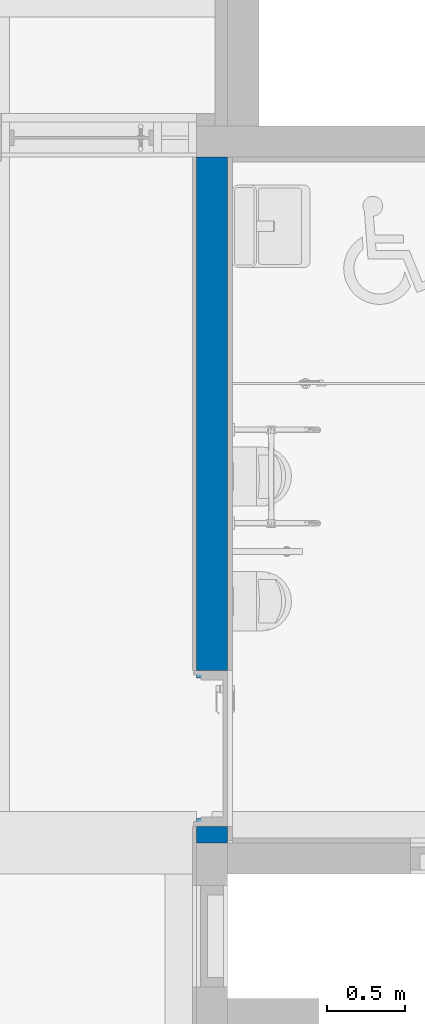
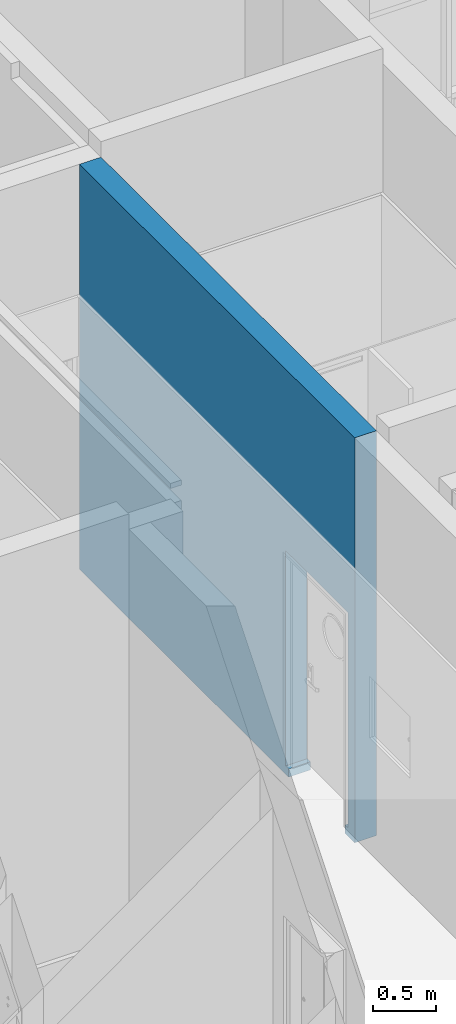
# One storey, part 57 of 76: 1 wall, 2 openings.
"""IFC2X3 building model written with IfcOpenShell, lengths in millimetres."""

from ifc_helpers import new_model, entity, si_unit, converted_unit, derived_unit, direction, frame, frame_2d, origin, place, context, subcontext, project, spatial, polyline, rectangle, extrude, clip, bounded_halfspace, material, layer, layer_set, layer_usage, type_object, element, save


model = new_model("IFC2X3")

# Units and contexts
model_context = context("Model", 3, precision=0.01, world=origin(), true_north=direction((6.123031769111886e-17, 1.0)))
body_context = subcontext(model_context, "Body", "Model", "MODEL_VIEW")
ifc_project = project(units=[si_unit("LENGTHUNIT", "METRE", prefix="MILLI"), si_unit("AREAUNIT", "SQUARE_METRE"), si_unit("VOLUMEUNIT", "CUBIC_METRE"), converted_unit("PLANEANGLEUNIT", "DEGREE", entity("IfcRatioMeasure", 0.017453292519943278), si_unit("PLANEANGLEUNIT", "RADIAN"), dimensions=[0, 0, 0, 0, 0, 0, 0]), si_unit("MASSUNIT", "GRAM", prefix="KILO"), derived_unit("MASSDENSITYUNIT", [(si_unit("MASSUNIT", "GRAM", prefix="KILO"), 1), (si_unit("LENGTHUNIT", "METRE"), -3)]), derived_unit("MOMENTOFINERTIAUNIT", [(si_unit("LENGTHUNIT", "METRE"), 4)]), si_unit("TIMEUNIT", "SECOND"), si_unit("FREQUENCYUNIT", "HERTZ"), si_unit("THERMODYNAMICTEMPERATUREUNIT", "DEGREE_CELSIUS"), derived_unit("THERMALTRANSMITTANCEUNIT", [(si_unit("MASSUNIT", "GRAM", prefix="KILO"), 1), (si_unit("THERMODYNAMICTEMPERATUREUNIT", "KELVIN"), -1), (si_unit("TIMEUNIT", "SECOND"), -3)]), derived_unit("VOLUMETRICFLOWRATEUNIT", [(si_unit("LENGTHUNIT", "METRE"), 3), (si_unit("TIMEUNIT", "SECOND"), -1)]), derived_unit("MASSFLOWRATEUNIT", [(si_unit("MASSUNIT", "GRAM", prefix="KILO"), 1), (si_unit("TIMEUNIT", "SECOND"), -1)]), derived_unit("ROTATIONALFREQUENCYUNIT", [(si_unit("TIMEUNIT", "SECOND"), -1)]), si_unit("ELECTRICCURRENTUNIT", "AMPERE"), si_unit("ELECTRICVOLTAGEUNIT", "VOLT"), si_unit("POWERUNIT", "WATT"), si_unit("FORCEUNIT", "NEWTON", prefix="KILO"), si_unit("ILLUMINANCEUNIT", "LUX"), si_unit("LUMINOUSFLUXUNIT", "LUMEN"), si_unit("LUMINOUSINTENSITYUNIT", "CANDELA"), derived_unit("USERDEFINED", [(si_unit("MASSUNIT", "GRAM", prefix="KILO"), -1), (si_unit("LENGTHUNIT", "METRE"), -2), (si_unit("TIMEUNIT", "SECOND"), 3), (si_unit("LUMINOUSFLUXUNIT", "LUMEN"), 1)]), derived_unit("SOUNDPOWERUNIT", [(si_unit("MASSUNIT", "GRAM", prefix="KILO"), 1), (si_unit("LENGTHUNIT", "METRE"), 2), (si_unit("TIMEUNIT", "SECOND"), -3)]), derived_unit("SOUNDPRESSUREUNIT", [(si_unit("MASSUNIT", "GRAM", prefix="KILO"), 1), (si_unit("LENGTHUNIT", "METRE"), -1), (si_unit("TIMEUNIT", "SECOND"), -2)]), derived_unit("LINEARVELOCITYUNIT", [(si_unit("LENGTHUNIT", "METRE"), 1), (si_unit("TIMEUNIT", "SECOND"), -1)]), si_unit("PRESSUREUNIT", "PASCAL"), derived_unit("USERDEFINED", [(si_unit("LENGTHUNIT", "METRE"), -2), (si_unit("MASSUNIT", "GRAM", prefix="KILO"), 1), (si_unit("TIMEUNIT", "SECOND"), -2)]), derived_unit("LINEARFORCEUNIT", [(si_unit("MASSUNIT", "GRAM", prefix="KILO"), 1), (si_unit("LENGTHUNIT", "METRE"), 1), (si_unit("TIMEUNIT", "SECOND"), -2), (si_unit("LENGTHUNIT", "METRE"), -1)]), derived_unit("PLANARFORCEUNIT", [(si_unit("MASSUNIT", "GRAM", prefix="KILO"), 1), (si_unit("LENGTHUNIT", "METRE"), 1), (si_unit("TIMEUNIT", "SECOND"), -2), (si_unit("LENGTHUNIT", "METRE"), -2)])], contexts=[model_context])

# Site, building, storey
site_placement = place(None, frame((-14167.972527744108, -657.2125860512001, 0.0)))
site = spatial("IfcSite", under=ifc_project, at=site_placement, Name="Default", CompositionType="ELEMENT")
building_placement = place(site_placement, origin())
building = spatial("IfcBuilding", under=site, at=building_placement, Name="Sample Building", CompositionType="ELEMENT")
storey_placement = place(building_placement, frame((0.0, 0.0, 9300.0)))
storey = spatial("IfcBuildingStorey", under=building, at=storey_placement, Name="지상 3층", CompositionType="ELEMENT", Elevation=9300.000000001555)

# Wall, openings
ifc_material = material(Name="KBIMS-콘크리트")
ifc_layer = layer(ifc_material, 200.0)
ifc_layer_set = layer_set([ifc_layer], Name="기본 벽:WA111-철근콘크리트구조 벽 200mm_CW1")
ifc_layer_usage = layer_usage(ifc_layer_set, "AXIS2", "NEGATIVE", 100.0)
wall_type = type_object("IfcWallType", Name="기본 벽:WA111-철근콘크리트구조 벽 200mm_CW1", PredefinedType="STANDARD", material=ifc_layer_set)
wall_placement = place(storey_placement, frame((38067.96379814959, 22457.212298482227, -2.297844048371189e-09), z_axis=(0.0, 0.0, 1.0), x_axis=(0.0, 1.0, 0.0)))
wall = element("IfcWallStandardCase", 1, at=wall_placement, inside=storey, type_object=wall_type, material=ifc_layer_usage, Name="기본 벽:WA111-철근콘크리트구조 벽 200mm_CW1", ObjectType="기본 벽:WA111-철근콘크리트구조 벽 200mm_CW1", context=body_context, shape_type="Clipping", body=[
    clip(extrude(rectangle(XDim=199.99999999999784, YDim=4399.999996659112, at=frame_2d((2199.999998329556, 0.0), x_axis=(0.0, 1.0))), origin(), (0.0, 0.0, 1.0), 3950.0000000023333), bounded_halfspace(frame((0.0, -100.0, 3950.0), z_axis=(0.0, 0.0, -1.0), x_axis=(0.0, -1.0, 0.0)), True, frame((0.0, -100.0, 3950.0), z_axis=(0.0, 0.0, -1.0), x_axis=(0.0, -1.0, 0.0)), polyline([(0.0, 0.0), (-60960.0, 0.0), (-60960.0, -60959.94360369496), (-60960.0, -1341120.0), (0.0, -1341120.0), (0.0, 0.0)]))),
])
opening_1_placement = place(storey_placement, frame((38067.96379814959, 22457.212298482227, -2.297844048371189e-09), z_axis=(0.0, 0.0, 1.0), x_axis=(0.0, 1.0, 0.0)))
element("IfcOpeningElement", 2, at=opening_1_placement, cuts=wall, Name="기본 벽:WA111-철근콘크리트구조 벽 200mm_CW1:1", ObjectType="Opening", context=body_context, shape_type="SweptSolid", body=[
    extrude(rectangle(XDim=80.00000000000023, YDim=199.99999999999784, at=frame_2d((5.435651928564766e-13, 4.334310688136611e-12), x_axis=(1.0, 0.0))), frame((156.46051964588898, 0.0, 40.0), z_axis=(1.0, 0.0, 0.0), x_axis=(0.0, 0.0, -1.0)), (0.0, 0.0, 1.0), 899.999999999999),
])
opening_2_placement = place(wall_placement, frame((1106.4605196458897, 100.0, 80.0)))
element("IfcOpeningElement", 3, at=opening_2_placement, cuts=wall, Name="DR111-외여닫이문(철재,일반)_유리포함(원형):DR111-외여닫이문(철재, 일반)_유리포함 (원형)_2100x1000:1", ObjectType="Opening", context=body_context, shape_type="SweptSolid", body=[
    extrude(rectangle(XDim=2099.999999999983, YDim=999.9999999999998, at=frame_2d((1049.9999999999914, 499.9999999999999), x_axis=(1.0, 0.0))), frame((0.0, 0.0, 0.0), z_axis=(0.0, -1.0, 0.0), x_axis=(0.0, 0.0, 1.0)), (0.0, 0.0, 1.0), 200.0),
])

save(model, "model.ifc")
